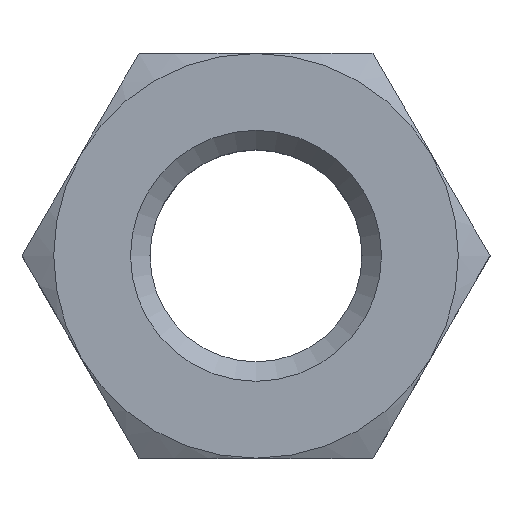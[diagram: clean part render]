
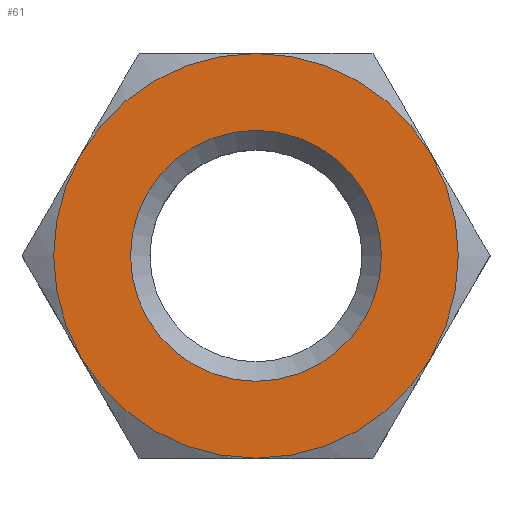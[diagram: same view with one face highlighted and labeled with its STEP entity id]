
A CAD part, top view. The second image highlights one B-rep face of the part: STEP entity #61.
In plain terms, the highlighted planar face has unit normal (0, 0, 1).
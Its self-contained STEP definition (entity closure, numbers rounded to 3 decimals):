
#61 = ADVANCED_FACE( '', ( #122, #123 ), #124, .F. );
#122 = FACE_BOUND( '', #175, .T. );
#123 = FACE_OUTER_BOUND( '', #176, .T. );
#124 = PLANE( '', #177 );
#175 = EDGE_LOOP( '', ( #274 ) );
#176 = EDGE_LOOP( '', ( #275 ) );
#177 = AXIS2_PLACEMENT_3D( '', #276, #277, #278 );
#274 = ORIENTED_EDGE( '', *, *, #304, .T. );
#275 = ORIENTED_EDGE( '', *, *, #306, .F. );
#276 = CARTESIAN_POINT( '', ( -11.258, 6.5, 6.8 ) );
#277 = DIRECTION( '', ( 0., 0., -1. ) );
#278 = DIRECTION( '', ( -1., 0., 0. ) );
#304 = EDGE_CURVE( '', #355, #355, #356, .T. );
#306 = EDGE_CURVE( '', #358, #358, #359, .T. );
#355 = VERTEX_POINT( '', #518 );
#356 = CIRCLE( '', #519, 4.025 );
#358 = VERTEX_POINT( '', #521 );
#359 = CIRCLE( '', #522, 6.49 );
#518 = CARTESIAN_POINT( '', ( -4.025, 0., 6.8 ) );
#519 = AXIS2_PLACEMENT_3D( '', #568, #569, #570 );
#521 = CARTESIAN_POINT( '', ( -6.49, 0., 6.8 ) );
#522 = AXIS2_PLACEMENT_3D( '', #571, #572, #573 );
#568 = CARTESIAN_POINT( '', ( 0., 0., 6.8 ) );
#569 = DIRECTION( '', ( 0., 0., -1. ) );
#570 = DIRECTION( '', ( -1., 0., 0. ) );
#571 = CARTESIAN_POINT( '', ( 0., 0., 6.8 ) );
#572 = DIRECTION( '', ( 0., 0., -1. ) );
#573 = DIRECTION( '', ( -1., 0., 0. ) );
